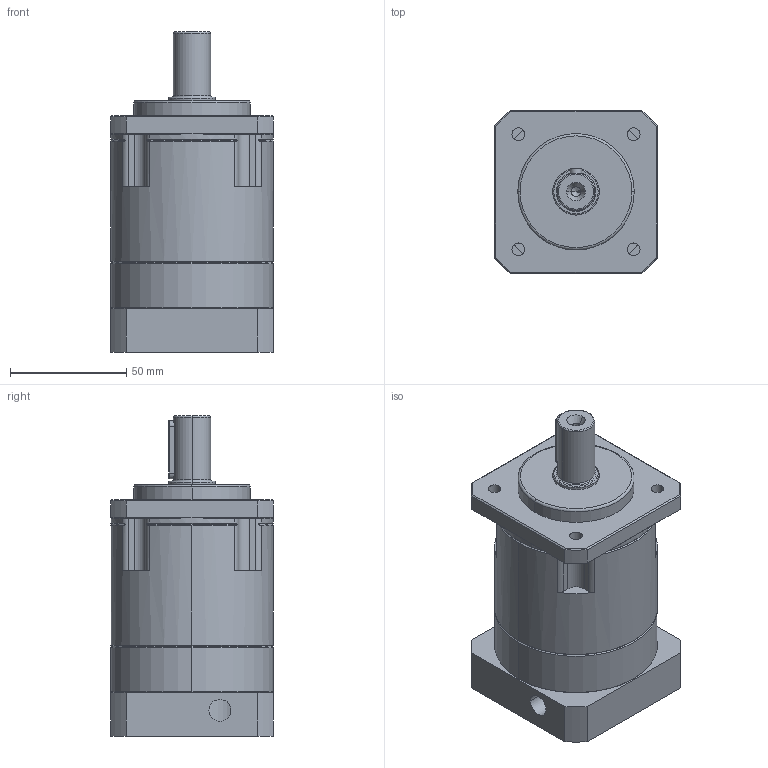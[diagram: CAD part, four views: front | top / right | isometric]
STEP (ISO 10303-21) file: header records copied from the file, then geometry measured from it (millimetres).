
FILE_DESCRIPTION (( 'STEP AP214' ), '1' );
FILE_NAME ('PBF70-L2-14×30-50-70M5 三维零件图.STEP', '2021-08-10T09:08:04', ( 'XJJ' ), ( '' ), 'SwSTEP 2.0', 'SolidWorks 2016', '' );
FILE_SCHEMA (( 'AUTOMOTIVE_DESIGN' ));
Length unit declared in the file: millimetre
Products named in the file (3): PBF70-L2-14×30-50-70M5 三维外形图; PBF70-L2-14×30-50-70M5 三维零件图; hexagon socket head cap screws gb_GB_FASTENER_SCREWS_HSHCS M5X16-N
Assembly tree (2 placements, depth 2):
  PBF70-L2-14×30-50-70M5 三维零件图
    PBF70-L2-14×30-50-70M5 三维外形图
    hexagon socket head cap screws gb_GB_FASTENER_SCREWS_HSHCS M5X16-N
Bounding box: 70 x 70 x 137.5 mm (x, y, z)
Volume: 397689.9 mm3; surface area: 48609.6 mm2
Topology: 2 solids, 2 shells, 206 faces, 508 edges, 310 vertices
Faces by surface type: cylinder 84, plane 69, cone 40, torus 13
Entity records: 7691 total; most frequent: CARTESIAN_POINT 1547, DIRECTION 1091, ORIENTED_EDGE 992, EDGE_CURVE 496, AXIS2_PLACEMENT_3D 436, VERTEX_POINT 310, EDGE_LOOP 238, CIRCLE 225
